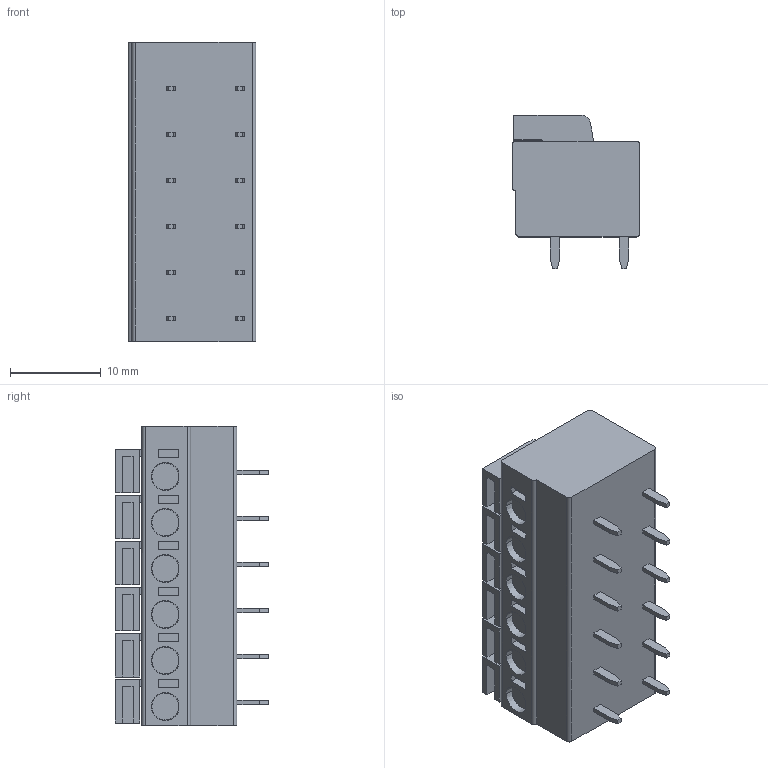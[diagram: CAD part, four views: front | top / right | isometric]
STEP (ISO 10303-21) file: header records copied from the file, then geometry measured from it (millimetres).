
FILE_DESCRIPTION((''),'2;1');
FILE_NAME('PRT0007','2020-06-12T',('P'),(''),'PRO/ENGINEER BY PARAMETRIC TECHNOLOGY CORPORATION, 2010280','PRO/ENGINEER BY PARAMETRIC TECHNOLOGY CORPORATION, 2010280','');
FILE_SCHEMA(('CONFIG_CONTROL_DESIGN'));
Length unit declared in the file: millimetre
Products named in the file (1): PRT0007
Bounding box: 14.1 x 16.9 x 33.02 mm (x, y, z)
Volume: 5169.9 mm3; surface area: 2936.2 mm2
Topology: 1 solids, 7 shells, 296 faces, 825 edges, 573 vertices
Faces by surface type: plane 249, cylinder 35, cone 12
Entity records: 9561 total; most frequent: CARTESIAN_POINT 1777, ORIENTED_EDGE 1650, DIRECTION 1509, EDGE_CURVE 825, VECTOR 691, LINE 691, VERTEX_POINT 573, AXIS2_PLACEMENT_3D 409
